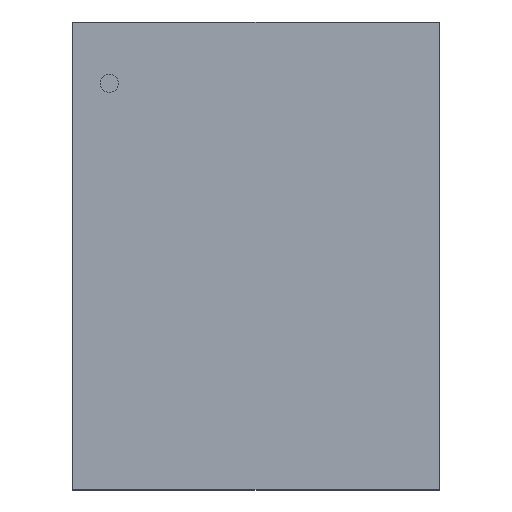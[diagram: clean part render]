
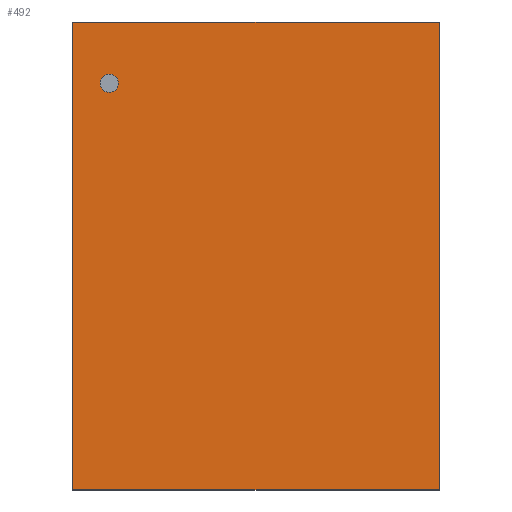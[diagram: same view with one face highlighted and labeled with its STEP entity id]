
A CAD part, top view. The second image highlights one B-rep face of the part: STEP entity #492.
In plain terms, the highlighted planar face has unit normal (0, 0, 1).
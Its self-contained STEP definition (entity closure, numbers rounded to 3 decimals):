
#268=CARTESIAN_POINT('',(1.295,-1.651,1.092));
#267=VERTEX_POINT('',#268);
#278=CARTESIAN_POINT('',(-1.295,-1.651,1.092));
#277=VERTEX_POINT('',#278);
#276=EDGE_CURVE('',#277,#267,#281,.T.);
#281=LINE('',#278,#283);
#283=VECTOR('',#284,2.591);
#284=DIRECTION('',(1.0,0.0,0.0));
#317=CARTESIAN_POINT('',(1.295,1.651,1.092));
#316=VERTEX_POINT('',#317);
#325=EDGE_CURVE('',#267,#316,#330,.T.);
#330=LINE('',#268,#332);
#332=VECTOR('',#333,3.302);
#333=DIRECTION('',(0.0,1.0,0.0));
#366=CARTESIAN_POINT('',(-1.295,1.651,1.092));
#365=VERTEX_POINT('',#366);
#374=EDGE_CURVE('',#316,#365,#379,.T.);
#379=LINE('',#317,#381);
#381=VECTOR('',#382,2.591);
#382=DIRECTION('',(-1.0,0.0,0.0));
#423=EDGE_CURVE('',#365,#277,#428,.T.);
#428=LINE('',#366,#430);
#430=VECTOR('',#431,3.302);
#431=DIRECTION('',(0.0,-1.0,0.0));
#492=ADVANCED_FACE('',(#498),#493,.T.);
#493=PLANE('',#494);
#494=AXIS2_PLACEMENT_3D('',#495,#496,#497);
#495=CARTESIAN_POINT('',(-1.295,-1.651,1.092));
#496=DIRECTION('',(0.0,0.0,1.0));
#497=DIRECTION('',(0.,1.,0.));
#498=FACE_OUTER_BOUND('',#499,.T.);
#499=EDGE_LOOP('',(#500,#510,#520,#530));
#500=ORIENTED_EDGE('',*,*,#276,.T.);
#510=ORIENTED_EDGE('',*,*,#325,.T.);
#520=ORIENTED_EDGE('',*,*,#374,.T.);
#530=ORIENTED_EDGE('',*,*,#423,.T.);
